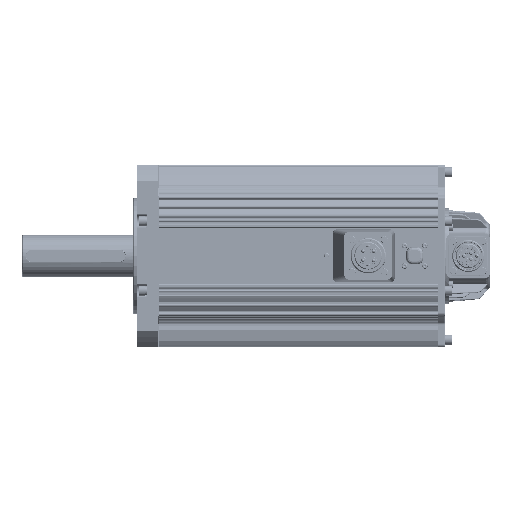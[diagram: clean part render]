
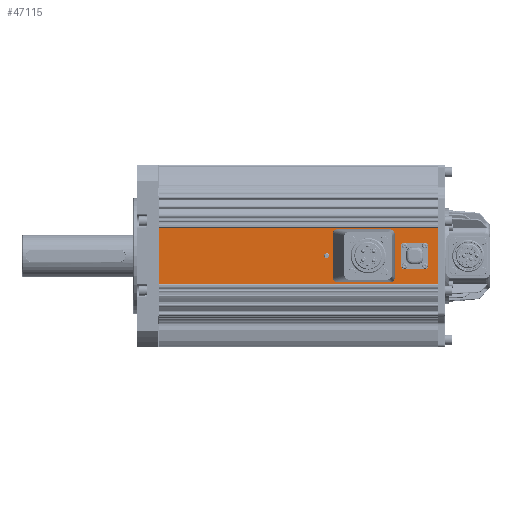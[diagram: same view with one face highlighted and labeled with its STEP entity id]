
A CAD part, top view. The second image highlights one B-rep face of the part: STEP entity #47115.
In plain terms, the highlighted planar face has unit normal (0, 0, 1) as drawn and (0, 1, 0) by its records, which use the part's own axes.
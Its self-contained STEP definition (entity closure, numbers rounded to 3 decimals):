
#32394=DIRECTION('',(-1.,0.,0.));
#32395=VECTOR('',#32394,55.);
#32396=CARTESIAN_POINT('',(27.5,89.,274.3));
#32397=LINE('',#32396,#32395);
#32398=DIRECTION('',(0.,0.,1.));
#32399=VECTOR('',#32398,274.3);
#32400=CARTESIAN_POINT('',(-27.5,89.,0.));
#32401=LINE('',#32400,#32399);
#32402=DIRECTION('',(1.,0.,0.));
#32403=VECTOR('',#32402,55.);
#32404=CARTESIAN_POINT('',(-27.5,89.,0.));
#32405=LINE('',#32404,#32403);
#32406=DIRECTION('',(0.,0.,1.));
#32407=VECTOR('',#32406,274.3);
#32408=CARTESIAN_POINT('',(27.5,89.,0.));
#32409=LINE('',#32408,#32407);
#32410=CARTESIAN_POINT('',(16.,89.,190.));
#32411=DIRECTION('',(0.,-1.,0.));
#32412=DIRECTION('',(-1.,0.,0.));
#32413=AXIS2_PLACEMENT_3D('',#32410,#32411,#32412);
#32415=CARTESIAN_POINT('',(16.,89.,190.));
#32416=DIRECTION('',(0.,-1.,0.));
#32417=DIRECTION('',(1.,0.,0.));
#32418=AXIS2_PLACEMENT_3D('',#32415,#32416,#32417);
#32420=CARTESIAN_POINT('',(0.,89.,190.));
#32421=DIRECTION('',(0.,-1.,0.));
#32422=DIRECTION('',(-1.,0.,0.));
#32423=AXIS2_PLACEMENT_3D('',#32420,#32421,#32422);
#32425=CARTESIAN_POINT('',(0.,89.,190.));
#32426=DIRECTION('',(0.,-1.,0.));
#32427=DIRECTION('',(1.,0.,0.));
#32428=AXIS2_PLACEMENT_3D('',#32425,#32426,#32427);
#32430=CARTESIAN_POINT('',(-16.,89.,190.));
#32431=DIRECTION('',(0.,-1.,0.));
#32432=DIRECTION('',(-1.,0.,0.));
#32433=AXIS2_PLACEMENT_3D('',#32430,#32431,#32432);
#32435=CARTESIAN_POINT('',(-16.,89.,190.));
#32436=DIRECTION('',(0.,-1.,0.));
#32437=DIRECTION('',(1.,0.,0.));
#32438=AXIS2_PLACEMENT_3D('',#32435,#32436,#32437);
#32440=CARTESIAN_POINT('',(0.,89.,210.));
#32441=DIRECTION('',(0.,-1.,0.));
#32442=DIRECTION('',(0.,0.,1.));
#32443=AXIS2_PLACEMENT_3D('',#32440,#32441,#32442);
#32445=CARTESIAN_POINT('',(0.,89.,210.));
#32446=DIRECTION('',(0.,-1.,0.));
#32447=DIRECTION('',(0.,0.,-1.));
#32448=AXIS2_PLACEMENT_3D('',#32445,#32446,#32447);
#32450=CARTESIAN_POINT('',(16.,89.,222.));
#32451=DIRECTION('',(0.,-1.,0.));
#32452=DIRECTION('',(-1.,0.,0.));
#32453=AXIS2_PLACEMENT_3D('',#32450,#32451,#32452);
#32455=CARTESIAN_POINT('',(16.,89.,222.));
#32456=DIRECTION('',(0.,-1.,0.));
#32457=DIRECTION('',(1.,0.,0.));
#32458=AXIS2_PLACEMENT_3D('',#32455,#32456,#32457);
#32460=CARTESIAN_POINT('',(-16.,89.,222.));
#32461=DIRECTION('',(0.,-1.,0.));
#32462=DIRECTION('',(-1.,0.,0.));
#32463=AXIS2_PLACEMENT_3D('',#32460,#32461,#32462);
#32465=CARTESIAN_POINT('',(-16.,89.,222.));
#32466=DIRECTION('',(0.,-1.,0.));
#32467=DIRECTION('',(1.,0.,0.));
#32468=AXIS2_PLACEMENT_3D('',#32465,#32466,#32467);
#32470=CARTESIAN_POINT('',(-10.,89.,261.8));
#32471=DIRECTION('',(0.,-1.,0.));
#32472=DIRECTION('',(1.,0.,0.));
#32473=AXIS2_PLACEMENT_3D('',#32470,#32471,#32472);
#32475=CARTESIAN_POINT('',(-10.,89.,261.8));
#32476=DIRECTION('',(0.,-1.,0.));
#32477=DIRECTION('',(-1.,0.,0.));
#32478=AXIS2_PLACEMENT_3D('',#32475,#32476,#32477);
#32480=CARTESIAN_POINT('',(-10.,89.,241.8));
#32481=DIRECTION('',(0.,-1.,0.));
#32482=DIRECTION('',(0.,0.,-1.));
#32483=AXIS2_PLACEMENT_3D('',#32480,#32481,#32482);
#32485=CARTESIAN_POINT('',(-10.,89.,241.8));
#32486=DIRECTION('',(0.,-1.,0.));
#32487=DIRECTION('',(0.,0.,1.));
#32488=AXIS2_PLACEMENT_3D('',#32485,#32486,#32487);
#32490=CARTESIAN_POINT('',(0.,89.,251.8));
#32491=DIRECTION('',(0.,-1.,0.));
#32492=DIRECTION('',(0.,0.,1.));
#32493=AXIS2_PLACEMENT_3D('',#32490,#32491,#32492);
#32495=CARTESIAN_POINT('',(0.,89.,251.8));
#32496=DIRECTION('',(0.,-1.,0.));
#32497=DIRECTION('',(0.,0.,-1.));
#32498=AXIS2_PLACEMENT_3D('',#32495,#32496,#32497);
#32500=CARTESIAN_POINT('',(10.,89.,261.8));
#32501=DIRECTION('',(0.,-1.,0.));
#32502=DIRECTION('',(0.,0.,1.));
#32503=AXIS2_PLACEMENT_3D('',#32500,#32501,#32502);
#32505=CARTESIAN_POINT('',(10.,89.,261.8));
#32506=DIRECTION('',(0.,-1.,0.));
#32507=DIRECTION('',(0.,0.,-1.));
#32508=AXIS2_PLACEMENT_3D('',#32505,#32506,#32507);
#32510=CARTESIAN_POINT('',(10.,89.,241.8));
#32511=DIRECTION('',(0.,-1.,0.));
#32512=DIRECTION('',(-1.,0.,0.));
#32513=AXIS2_PLACEMENT_3D('',#32510,#32511,#32512);
#32515=CARTESIAN_POINT('',(10.,89.,241.8));
#32516=DIRECTION('',(0.,-1.,0.));
#32517=DIRECTION('',(1.,0.,0.));
#32518=AXIS2_PLACEMENT_3D('',#32515,#32516,#32517);
#32520=CARTESIAN_POINT('',(0.,89.,165.));
#32521=DIRECTION('',(0.,1.,0.));
#32522=DIRECTION('',(-1.,0.,0.));
#32523=AXIS2_PLACEMENT_3D('',#32520,#32521,#32522);
#32525=CARTESIAN_POINT('',(0.,89.,165.));
#32526=DIRECTION('',(0.,1.,0.));
#32527=DIRECTION('',(1.,0.,0.));
#32528=AXIS2_PLACEMENT_3D('',#32525,#32526,#32527);
#37773=CARTESIAN_POINT('',(27.5,89.,0.));
#37775=VERTEX_POINT('',#37773);
#37779=CARTESIAN_POINT('',(27.5,89.,274.3));
#37781=VERTEX_POINT('',#37779);
#39892=CARTESIAN_POINT('',(13.75,89.,190.));
#39893=CARTESIAN_POINT('',(18.25,89.,190.));
#39894=VERTEX_POINT('',#39892);
#39895=VERTEX_POINT('',#39893);
#39900=CARTESIAN_POINT('',(-2.25,89.,190.));
#39901=CARTESIAN_POINT('',(2.25,89.,190.));
#39902=VERTEX_POINT('',#39900);
#39903=VERTEX_POINT('',#39901);
#39908=CARTESIAN_POINT('',(-18.25,89.,190.));
#39909=CARTESIAN_POINT('',(-13.75,89.,190.));
#39910=VERTEX_POINT('',#39908);
#39911=VERTEX_POINT('',#39909);
#39916=CARTESIAN_POINT('',(0.,89.,223.5));
#39917=CARTESIAN_POINT('',(0.,89.,196.5));
#39918=VERTEX_POINT('',#39916);
#39919=VERTEX_POINT('',#39917);
#39924=CARTESIAN_POINT('',(13.75,89.,222.));
#39925=CARTESIAN_POINT('',(18.25,89.,222.));
#39926=VERTEX_POINT('',#39924);
#39927=VERTEX_POINT('',#39925);
#39932=CARTESIAN_POINT('',(-18.25,89.,222.));
#39933=CARTESIAN_POINT('',(-13.75,89.,222.));
#39934=VERTEX_POINT('',#39932);
#39935=VERTEX_POINT('',#39933);
#40456=CARTESIAN_POINT('',(-27.5,89.,0.));
#40457=CARTESIAN_POINT('',(-27.5,89.,274.3));
#40458=VERTEX_POINT('',#40456);
#40459=VERTEX_POINT('',#40457);
#41032=CARTESIAN_POINT('',(-8.25,89.,261.8));
#41033=CARTESIAN_POINT('',(-11.75,89.,261.8));
#41034=VERTEX_POINT('',#41032);
#41035=VERTEX_POINT('',#41033);
#41040=CARTESIAN_POINT('',(-10.,89.,240.05));
#41041=CARTESIAN_POINT('',(-10.,89.,243.55));
#41042=VERTEX_POINT('',#41040);
#41043=VERTEX_POINT('',#41041);
#41048=CARTESIAN_POINT('',(0.,89.,260.55));
#41049=CARTESIAN_POINT('',(0.,89.,243.05));
#41050=VERTEX_POINT('',#41048);
#41051=VERTEX_POINT('',#41049);
#41056=CARTESIAN_POINT('',(10.,89.,263.55));
#41057=CARTESIAN_POINT('',(10.,89.,260.05));
#41058=VERTEX_POINT('',#41056);
#41059=VERTEX_POINT('',#41057);
#41064=CARTESIAN_POINT('',(8.25,89.,241.8));
#41065=CARTESIAN_POINT('',(11.75,89.,241.8));
#41066=VERTEX_POINT('',#41064);
#41067=VERTEX_POINT('',#41065);
#41099=CARTESIAN_POINT('',(-2.5,89.,165.));
#41100=CARTESIAN_POINT('',(2.5,89.,165.));
#41101=VERTEX_POINT('',#41099);
#41102=VERTEX_POINT('',#41100);
#47031=CARTESIAN_POINT('',(27.5,89.,0.));
#47032=DIRECTION('',(0.,-1.,0.));
#47033=DIRECTION('',(-1.,0.,0.));
#47034=AXIS2_PLACEMENT_3D('',#47031,#47032,#47033);
#47035=PLANE('',#47034);
#47036=ORIENTED_EDGE('',*,*,#43322,.T.);
#47037=ORIENTED_EDGE('',*,*,#47025,.F.);
#47038=ORIENTED_EDGE('',*,*,#42423,.T.);
#47040=ORIENTED_EDGE('',*,*,#47039,.T.);
#47041=EDGE_LOOP('',(#47036,#47037,#47038,#47040));
#47042=FACE_OUTER_BOUND('',#47041,.F.);
#47044=ORIENTED_EDGE('',*,*,#47043,.F.);
#47046=ORIENTED_EDGE('',*,*,#47045,.F.);
#47047=EDGE_LOOP('',(#47044,#47046));
#47048=FACE_BOUND('',#47047,.F.);
#47050=ORIENTED_EDGE('',*,*,#47049,.F.);
#47052=ORIENTED_EDGE('',*,*,#47051,.F.);
#47053=EDGE_LOOP('',(#47050,#47052));
#47054=FACE_BOUND('',#47053,.F.);
#47056=ORIENTED_EDGE('',*,*,#47055,.F.);
#47058=ORIENTED_EDGE('',*,*,#47057,.F.);
#47059=EDGE_LOOP('',(#47056,#47058));
#47060=FACE_BOUND('',#47059,.F.);
#47062=ORIENTED_EDGE('',*,*,#47061,.F.);
#47064=ORIENTED_EDGE('',*,*,#47063,.F.);
#47065=EDGE_LOOP('',(#47062,#47064));
#47066=FACE_BOUND('',#47065,.F.);
#47068=ORIENTED_EDGE('',*,*,#47067,.F.);
#47070=ORIENTED_EDGE('',*,*,#47069,.F.);
#47071=EDGE_LOOP('',(#47068,#47070));
#47072=FACE_BOUND('',#47071,.F.);
#47074=ORIENTED_EDGE('',*,*,#47073,.F.);
#47076=ORIENTED_EDGE('',*,*,#47075,.F.);
#47077=EDGE_LOOP('',(#47074,#47076));
#47078=FACE_BOUND('',#47077,.F.);
#47080=ORIENTED_EDGE('',*,*,#47079,.F.);
#47082=ORIENTED_EDGE('',*,*,#47081,.F.);
#47083=EDGE_LOOP('',(#47080,#47082));
#47084=FACE_BOUND('',#47083,.F.);
#47086=ORIENTED_EDGE('',*,*,#47085,.F.);
#47088=ORIENTED_EDGE('',*,*,#47087,.F.);
#47089=EDGE_LOOP('',(#47086,#47088));
#47090=FACE_BOUND('',#47089,.F.);
#47092=ORIENTED_EDGE('',*,*,#47091,.F.);
#47094=ORIENTED_EDGE('',*,*,#47093,.F.);
#47095=EDGE_LOOP('',(#47092,#47094));
#47096=FACE_BOUND('',#47095,.F.);
#47098=ORIENTED_EDGE('',*,*,#47097,.F.);
#47100=ORIENTED_EDGE('',*,*,#47099,.F.);
#47101=EDGE_LOOP('',(#47098,#47100));
#47102=FACE_BOUND('',#47101,.F.);
#47104=ORIENTED_EDGE('',*,*,#47103,.F.);
#47106=ORIENTED_EDGE('',*,*,#47105,.F.);
#47107=EDGE_LOOP('',(#47104,#47106));
#47108=FACE_BOUND('',#47107,.F.);
#47110=ORIENTED_EDGE('',*,*,#47109,.T.);
#47112=ORIENTED_EDGE('',*,*,#47111,.T.);
#47113=EDGE_LOOP('',(#47110,#47112));
#47114=FACE_BOUND('',#47113,.F.);
#47115=ADVANCED_FACE('',(#47042,#47048,#47054,#47060,#47066,#47072,#47078,
#47084,#47090,#47096,#47102,#47108,#47114),#47035,.F.);
#32414=CIRCLE('',#32413,2.25);
#32419=CIRCLE('',#32418,2.25);
#32424=CIRCLE('',#32423,2.25);
#32429=CIRCLE('',#32428,2.25);
#32434=CIRCLE('',#32433,2.25);
#32439=CIRCLE('',#32438,2.25);
#32444=CIRCLE('',#32443,13.5);
#32449=CIRCLE('',#32448,13.5);
#32454=CIRCLE('',#32453,2.25);
#32459=CIRCLE('',#32458,2.25);
#32464=CIRCLE('',#32463,2.25);
#32469=CIRCLE('',#32468,2.25);
#32474=CIRCLE('',#32473,1.75);
#32479=CIRCLE('',#32478,1.75);
#32484=CIRCLE('',#32483,1.75);
#32489=CIRCLE('',#32488,1.75);
#32494=CIRCLE('',#32493,8.75);
#32499=CIRCLE('',#32498,8.75);
#32504=CIRCLE('',#32503,1.75);
#32509=CIRCLE('',#32508,1.75);
#32514=CIRCLE('',#32513,1.75);
#32519=CIRCLE('',#32518,1.75);
#32524=CIRCLE('',#32523,2.5);
#32529=CIRCLE('',#32528,2.5);
#42423=EDGE_CURVE('',#40458,#37775,#32405,.T.);
#43322=EDGE_CURVE('',#37781,#40459,#32397,.T.);
#47025=EDGE_CURVE('',#40458,#40459,#32401,.T.);
#47039=EDGE_CURVE('',#37775,#37781,#32409,.T.);
#47043=EDGE_CURVE('',#39894,#39895,#32414,.T.);
#47045=EDGE_CURVE('',#39895,#39894,#32419,.T.);
#47049=EDGE_CURVE('',#39902,#39903,#32424,.T.);
#47051=EDGE_CURVE('',#39903,#39902,#32429,.T.);
#47055=EDGE_CURVE('',#39910,#39911,#32434,.T.);
#47057=EDGE_CURVE('',#39911,#39910,#32439,.T.);
#47061=EDGE_CURVE('',#39918,#39919,#32444,.T.);
#47063=EDGE_CURVE('',#39919,#39918,#32449,.T.);
#47067=EDGE_CURVE('',#39926,#39927,#32454,.T.);
#47069=EDGE_CURVE('',#39927,#39926,#32459,.T.);
#47073=EDGE_CURVE('',#39934,#39935,#32464,.T.);
#47075=EDGE_CURVE('',#39935,#39934,#32469,.T.);
#47079=EDGE_CURVE('',#41034,#41035,#32474,.T.);
#47081=EDGE_CURVE('',#41035,#41034,#32479,.T.);
#47085=EDGE_CURVE('',#41042,#41043,#32484,.T.);
#47087=EDGE_CURVE('',#41043,#41042,#32489,.T.);
#47091=EDGE_CURVE('',#41050,#41051,#32494,.T.);
#47093=EDGE_CURVE('',#41051,#41050,#32499,.T.);
#47097=EDGE_CURVE('',#41058,#41059,#32504,.T.);
#47099=EDGE_CURVE('',#41059,#41058,#32509,.T.);
#47103=EDGE_CURVE('',#41066,#41067,#32514,.T.);
#47105=EDGE_CURVE('',#41067,#41066,#32519,.T.);
#47109=EDGE_CURVE('',#41101,#41102,#32524,.T.);
#47111=EDGE_CURVE('',#41102,#41101,#32529,.T.);
